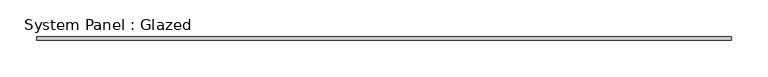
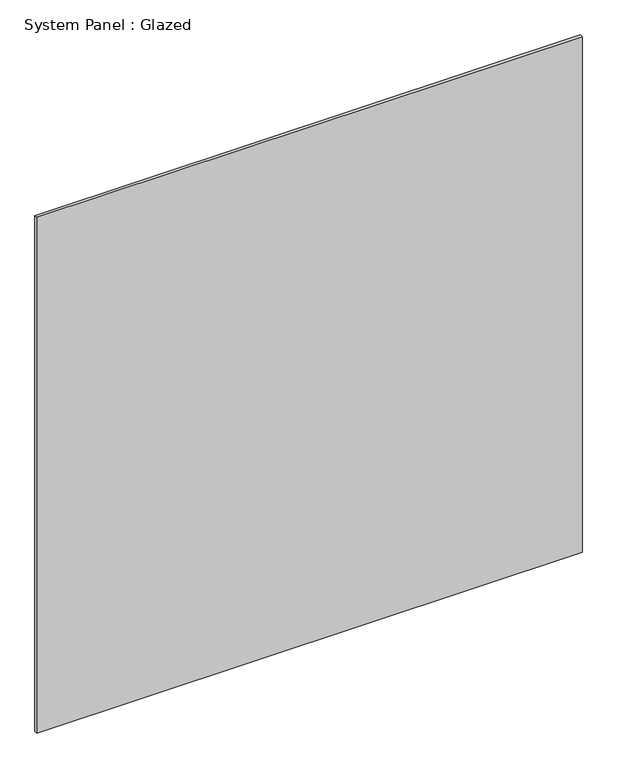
"""IFC4 building model written with IfcOpenShell, lengths in millimetres: plate geometry, System Panel : Glazed."""

from ifc_helpers import new_model, si_unit, origin, origin_with_axes, place, context, project, spatial, polyline, outline, extrude, source, transform, mapped, element, save


def system_panel_glazed_e5572be6(model_context):
    return source(origin(), model_context, "Body", "SweptSolid", [
        extrude(outline(polyline([(475.0, -2.5), (-475.0, -2.5), (-475.0, 2.5), (475.0, 2.5), (475.0, -2.5)])), origin_with_axes(), (0.0, 0.0, 1.0), 950.0),
    ])


if __name__ == "__main__":
    model = new_model("IFC4")
    model_context = context("Model", 3, world=origin())
    ifc_project = project(units=[si_unit("LENGTHUNIT", "METRE", prefix="MILLI")], contexts=[model_context])
    site = spatial("IfcSite", under=ifc_project)
    building = spatial("IfcBuilding", under=site)
    placement = place(None, origin())
    system_panel_glazed_shape = system_panel_glazed_e5572be6(model_context)
    element("IfcPlate", 1, ObjectType="System Panel : Glazed", at=placement, inside=building, context=model_context, shape_type="MappedRepresentation", body=[
        mapped(system_panel_glazed_shape, transform((0.0, 0.0, 0.0), x_axis=(1.0, 0.0, 0.0), y_axis=(0.0, 1.0, 0.0), z_axis=(0.0, 0.0, 1.0))),
    ])
    save(model, "model.ifc")
